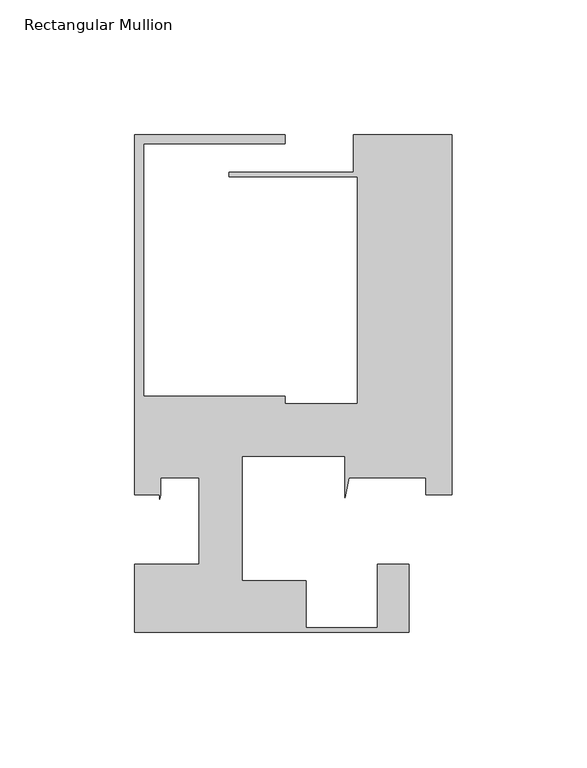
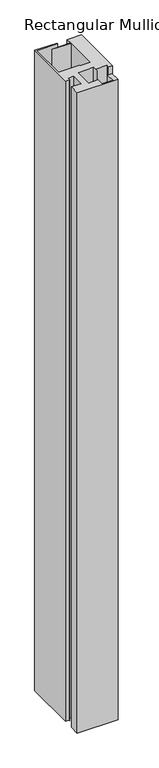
"""IFC4 building model written with IfcOpenShell, lengths in millimetres: member geometry, Rectangular Mullion : Captured Chicken Head Stack."""

from ifc_helpers import new_model, si_unit, frame, origin, place, context, project, spatial, polyline, outline, extrude, source, transform, mapped, element, save


def rectangular_mullion_c9ef158f(model_context):
    return source(origin(), model_context, "Body", "SweptSolid", [
        extrude(outline(polyline([(-61.8998316, 114.30254), (-61.8998316, 111.1275493), (-114.2999537, 111.1275493), (-114.2999537, 17.4529386), (-61.8998316, 17.4529386), (-61.8998316, 14.7454592), (-34.9249745, 14.7454592), (-34.9249745, 98.8645), (-82.5631556, 98.8645), (-82.5631556, 100.4392965), (-36.5130248, 100.4392965), (-36.5130248, 114.30254), (0.0, 114.30254), (0.0, -19.0105392), (-9.5249909, -19.0105392), (-9.5249909, -12.7), (-38.1999639, -12.7), (-39.6874745, -19.9856123), (-39.6874745, -4.7624076), (-77.7875, -4.7624076), (-77.7875, -50.8), (-53.9750123, -50.8), (-53.9750123, -68.2751632), (-27.6414131, -68.2751632), (-27.6414131, -44.7665099), (-15.8431035, -44.7665099), (-15.8431035, -69.8499672), (-117.4750025, -69.8499672), (-117.4750025, -44.7665099), (-93.6624995, -44.7665099), (-93.6624995, -12.699996), (-107.9500091, -12.699996), (-107.9500091, -19.05), (-108.3471992, -20.5435829), (-108.3471992, -18.9450334), (-117.475, -18.9450334), (-117.475, 114.30254), (-61.8998316, 114.30254)])), frame((0.0, 0.0, -1692.2396178), z_axis=(0.0, 0.0, 1.0), x_axis=(1.0, 0.0, 0.0)), (0.0, 0.0, 1.0), 1692.2396178),
    ])


if __name__ == "__main__":
    model = new_model("IFC4")
    model_context = context("Model", 3, world=origin())
    ifc_project = project(units=[si_unit("LENGTHUNIT", "METRE", prefix="MILLI")], contexts=[model_context])
    site = spatial("IfcSite", under=ifc_project)
    building = spatial("IfcBuilding", under=site)
    placement = place(None, origin())
    rectangular_mullion_shape = rectangular_mullion_c9ef158f(model_context)
    element("IfcMember", 1, ObjectType="Rectangular Mullion : Captured Chicken Head Stack", at=placement, inside=building, context=model_context, shape_type="MappedRepresentation", body=[
        mapped(rectangular_mullion_shape, transform((0.0, 0.0, 0.0), x_axis=(1.0, 0.0, 0.0), y_axis=(0.0, 1.0, 0.0), z_axis=(0.0, 0.0, 1.0))),
    ])
    save(model, "model.ifc")
